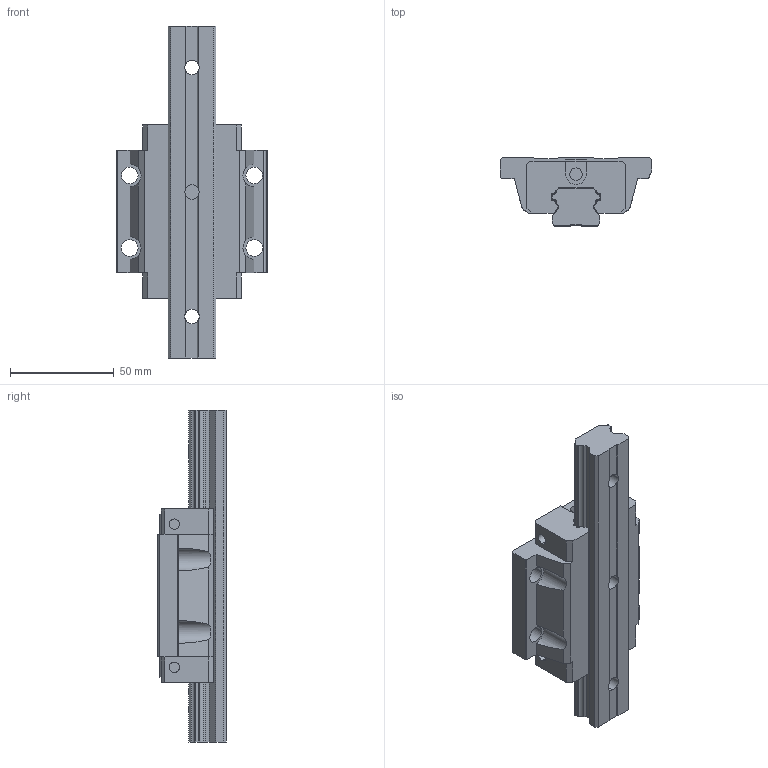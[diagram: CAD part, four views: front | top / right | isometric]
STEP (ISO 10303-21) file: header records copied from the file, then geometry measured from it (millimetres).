
FILE_DESCRIPTION((''),'2;1');
FILE_NAME('QEW25CA_ASM','2008-07-11T',('brianyu'),(''),'PRO/ENGINEER BY PARAMETRIC TECHNOLOGY CORPORATION, 2004360','PRO/ENGINEER BY PARAMETRIC TECHNOLOGY CORPORATION, 2004360','');
FILE_SCHEMA(('CONFIG_CONTROL_DESIGN'));
Length unit declared in the file: millimetre
Products named in the file (4): QER25_RAIL; QEW25CA_BLOCK; QEW25CA_ASM_ASM; QEW25CA_ASM
Assembly tree (3 placements, depth 3):
  QEW25CA_ASM
    QEW25CA_ASM_ASM
      QER25_RAIL
      QEW25CA_BLOCK
Bounding box: 73 x 33 x 160 mm (x, y, z)
Volume: 154211.6 mm3; surface area: 36991 mm2
Topology: 2 solids, 6 shells, 195 faces, 559 edges, 386 vertices
Faces by surface type: plane 123, cylinder 72
Entity records: 6639 total; most frequent: CARTESIAN_POINT 1237, ORIENTED_EDGE 1118, DIRECTION 1103, EDGE_CURVE 559, VERTEX_POINT 386, VECTOR 375, LINE 375, AXIS2_PLACEMENT_3D 364
